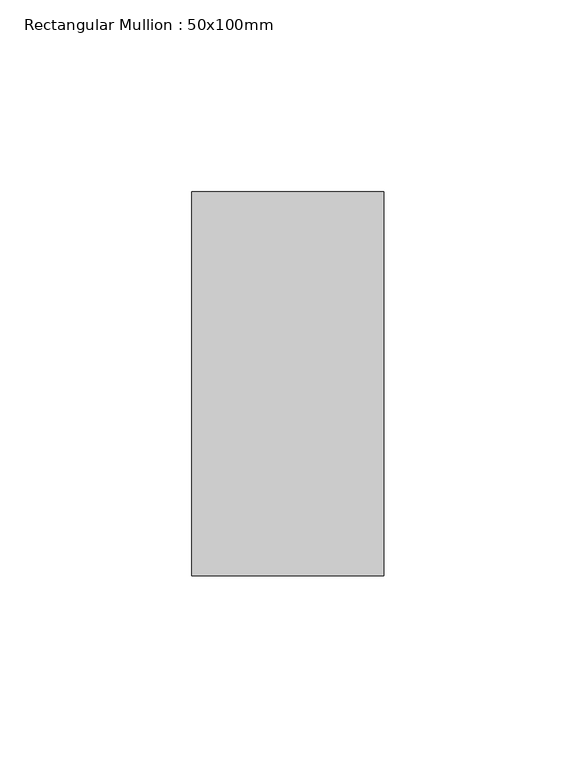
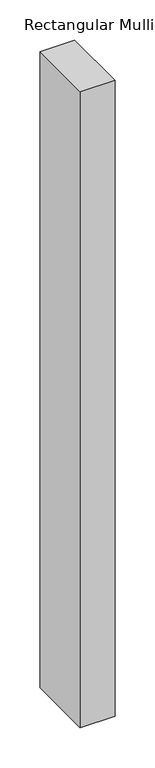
"""IFC4 building model written with IfcOpenShell, lengths in millimetres: member geometry, Rectangular Mullion : 50x100mm."""

from ifc_helpers import new_model, si_unit, frame, origin, place, context, project, spatial, polyline, outline, extrude, source, transform, mapped, element, save


def rectangular_mullion_50x100mm_926a25b7(model_context):
    return source(origin(), model_context, "Body", "SweptSolid", [
        extrude(outline(polyline([(0.0, 50.0), (0.0, -50.0), (-50.0, -50.0), (-50.0, 50.0), (0.0, 50.0)])), frame((0.0, 0.0, -967.0), z_axis=(0.0, 0.0, 1.0), x_axis=(1.0, 0.0, 0.0)), (0.0, 0.0, 1.0), 967.0),
    ])


if __name__ == "__main__":
    model = new_model("IFC4")
    model_context = context("Model", 3, world=origin())
    ifc_project = project(units=[si_unit("LENGTHUNIT", "METRE", prefix="MILLI")], contexts=[model_context])
    site = spatial("IfcSite", under=ifc_project)
    building = spatial("IfcBuilding", under=site)
    placement = place(None, origin())
    rectangular_mullion_50x100mm_shape = rectangular_mullion_50x100mm_926a25b7(model_context)
    element("IfcMember", 1, ObjectType="Rectangular Mullion : 50x100mm", at=placement, inside=building, context=model_context, shape_type="MappedRepresentation", body=[
        mapped(rectangular_mullion_50x100mm_shape, transform((0.0, 0.0, 0.0), x_axis=(1.0, 0.0, 0.0), y_axis=(0.0, 1.0, 0.0), z_axis=(0.0, 0.0, 1.0))),
    ])
    save(model, "model.ifc")
